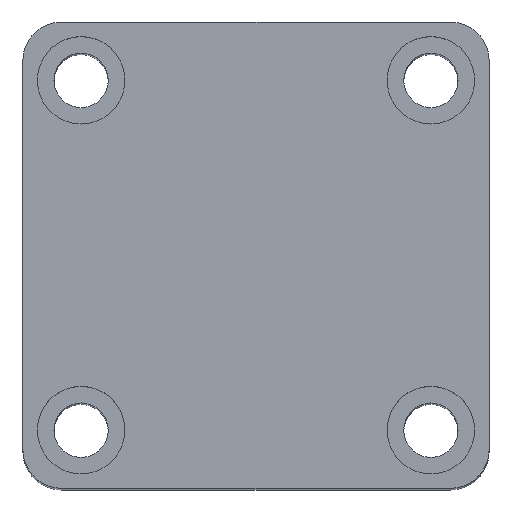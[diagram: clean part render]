
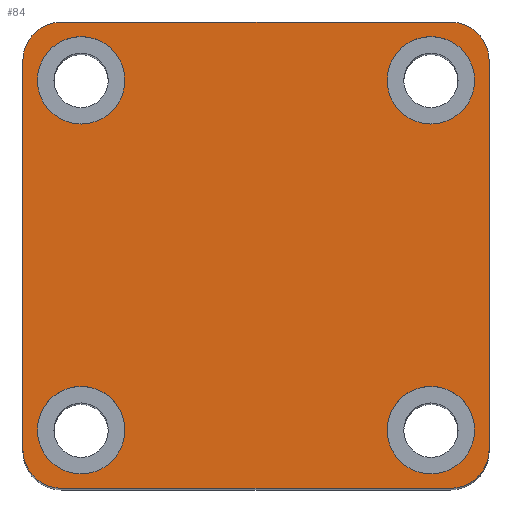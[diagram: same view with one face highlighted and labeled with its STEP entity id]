
A CAD part, top view. The second image highlights one B-rep face of the part: STEP entity #84.
In plain terms, the highlighted planar face has unit normal (0, 0, 1).
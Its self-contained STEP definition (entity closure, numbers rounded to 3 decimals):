
#84 = ADVANCED_FACE ( 'NONE', ( #748, #742, #744, #743, #754 ), #2011, .T. ) ;
#97 = EDGE_LOOP ( 'NONE', ( #390, #389 ) ) ;
#109 = EDGE_LOOP ( 'NONE', ( #397, #398, #430, #399, #402, #400, #404, #403 ) ) ;
#110 = EDGE_LOOP ( 'NONE', ( #388, #387 ) ) ;
#171 = EDGE_LOOP ( 'NONE', ( #386, #385 ) ) ;
#174 = VERTEX_POINT ( 'NONE', #1993 ) ;
#189 = VERTEX_POINT ( 'NONE', #1977 ) ;
#202 = VERTEX_POINT ( 'NONE', #1962 ) ;
#208 = VERTEX_POINT ( 'NONE', #1953 ) ;
#209 = VERTEX_POINT ( 'NONE', #1952 ) ;
#210 = VERTEX_POINT ( 'NONE', #1951 ) ;
#221 = VERTEX_POINT ( 'NONE', #1938 ) ;
#225 = VERTEX_POINT ( 'NONE', #1934 ) ;
#227 = VERTEX_POINT ( 'NONE', #1932 ) ;
#242 = VERTEX_POINT ( 'NONE', #1913 ) ;
#244 = VERTEX_POINT ( 'NONE', #1909 ) ;
#253 = VERTEX_POINT ( 'NONE', #1898 ) ;
#261 = VERTEX_POINT ( 'NONE', #1888 ) ;
#273 = VERTEX_POINT ( 'NONE', #1872 ) ;
#274 = VERTEX_POINT ( 'NONE', #1871 ) ;
#279 = VERTEX_POINT ( 'NONE', #1866 ) ;
#385 = ORIENTED_EDGE ( 'NONE', *, *, #2273, .F. ) ;
#386 = ORIENTED_EDGE ( 'NONE', *, *, #2280, .F. ) ;
#387 = ORIENTED_EDGE ( 'NONE', *, *, #1620, .F. ) ;
#388 = ORIENTED_EDGE ( 'NONE', *, *, #2281, .F. ) ;
#389 = ORIENTED_EDGE ( 'NONE', *, *, #1624, .F. ) ;
#390 = ORIENTED_EDGE ( 'NONE', *, *, #2282, .F. ) ;
#391 = ORIENTED_EDGE ( 'NONE', *, *, #1628, .F. ) ;
#393 = ORIENTED_EDGE ( 'NONE', *, *, #2283, .F. ) ;
#397 = ORIENTED_EDGE ( 'NONE', *, *, #1521, .T. ) ;
#398 = ORIENTED_EDGE ( 'NONE', *, *, #2274, .T. ) ;
#399 = ORIENTED_EDGE ( 'NONE', *, *, #2276, .T. ) ;
#400 = ORIENTED_EDGE ( 'NONE', *, *, #2272, .T. ) ;
#402 = ORIENTED_EDGE ( 'NONE', *, *, #2372, .T. ) ;
#403 = ORIENTED_EDGE ( 'NONE', *, *, #2277, .T. ) ;
#404 = ORIENTED_EDGE ( 'NONE', *, *, #2250, .T. ) ;
#430 = ORIENTED_EDGE ( 'NONE', *, *, #1507, .T. ) ;
#501 = EDGE_LOOP ( 'NONE', ( #393, #391 ) ) ;
#610 = CIRCLE ( 'NONE', #1470, 4.5 ) ;
#611 = CIRCLE ( 'NONE', #1471, 4.5 ) ;
#612 = CIRCLE ( 'NONE', #1472, 4.5 ) ;
#615 = CIRCLE ( 'NONE', #1475, 4. ) ;
#617 = CIRCLE ( 'NONE', #1476, 4. ) ;
#619 = CIRCLE ( 'NONE', #1477, 4. ) ;
#620 = CIRCLE ( 'NONE', #1478, 4.5 ) ;
#622 = CIRCLE ( 'NONE', #1473, 4.5 ) ;
#625 = CIRCLE ( 'NONE', #1479, 4. ) ;
#651 = VECTOR ( 'NONE', #1267, 1000. ) ;
#653 = LINE ( 'NONE', #1089, #651 ) ;
#691 = CIRCLE ( 'NONE', #1505, 4.5 ) ;
#697 = CIRCLE ( 'NONE', #1509, 4.5 ) ;
#703 = CIRCLE ( 'NONE', #1511, 4.5 ) ;
#722 = VECTOR ( 'NONE', #1838, 1000. ) ;
#726 = LINE ( 'NONE', #1839, #722 ) ;
#729 = LINE ( 'NONE', #1852, #732 ) ;
#732 = VECTOR ( 'NONE', #1844, 1000. ) ;
#742 = FACE_BOUND ( 'NONE', #110, .T. ) ;
#743 = FACE_BOUND ( 'NONE', #501, .T. ) ;
#744 = FACE_BOUND ( 'NONE', #97, .T. ) ;
#748 = FACE_BOUND ( 'NONE', #171, .T. ) ;
#754 = FACE_OUTER_BOUND ( 'NONE', #109, .T. ) ;
#1089 = CARTESIAN_POINT ( 'NONE',  ( 24., 24., 95. ) ) ;
#1200 = DIRECTION ( 'NONE',  ( 1., 0., 0. ) ) ;
#1201 = DIRECTION ( 'NONE',  ( 0., 0., 1. ) ) ;
#1203 = CARTESIAN_POINT ( 'NONE',  ( 18., -18., 95. ) ) ;
#1207 = DIRECTION ( 'NONE',  ( 1., 0., 0. ) ) ;
#1208 = DIRECTION ( 'NONE',  ( 0., 0., 1. ) ) ;
#1209 = CARTESIAN_POINT ( 'NONE',  ( -18., -18., 95. ) ) ;
#1211 = DIRECTION ( 'NONE',  ( 1., 0., 0. ) ) ;
#1213 = DIRECTION ( 'NONE',  ( 0., 0., 1. ) ) ;
#1216 = CARTESIAN_POINT ( 'NONE',  ( 18., 18., 95. ) ) ;
#1217 = DIRECTION ( 'NONE',  ( 1., 0., 0. ) ) ;
#1220 = DIRECTION ( 'NONE',  ( 0., 0., 1. ) ) ;
#1221 = CARTESIAN_POINT ( 'NONE',  ( -18., 18., 95. ) ) ;
#1232 = DIRECTION ( 'NONE',  ( 0., 0., 1. ) ) ;
#1236 = DIRECTION ( 'NONE',  ( 1., 0., 0. ) ) ;
#1237 = DIRECTION ( 'NONE',  ( 0., 0., 1. ) ) ;
#1239 = DIRECTION ( 'NONE',  ( 1., 0., 0. ) ) ;
#1240 = CARTESIAN_POINT ( 'NONE',  ( 20., 20., 95. ) ) ;
#1243 = CARTESIAN_POINT ( 'NONE',  ( 18., -18., 95. ) ) ;
#1245 = DIRECTION ( 'NONE',  ( 1., 0., 0. ) ) ;
#1246 = DIRECTION ( 'NONE',  ( 0., 0., 1. ) ) ;
#1247 = CARTESIAN_POINT ( 'NONE',  ( -20., -20., 95. ) ) ;
#1248 = DIRECTION ( 'NONE',  ( 1., 0., 0. ) ) ;
#1249 = DIRECTION ( 'NONE',  ( 1., 0., 0. ) ) ;
#1250 = DIRECTION ( 'NONE',  ( 0., 0., 1. ) ) ;
#1251 = CARTESIAN_POINT ( 'NONE',  ( -20., 20., 95. ) ) ;
#1255 = DIRECTION ( 'NONE',  ( 1., 0., 0. ) ) ;
#1256 = DIRECTION ( 'NONE',  ( 0., 0., 1. ) ) ;
#1257 = DIRECTION ( 'NONE',  ( 0., 0., 1. ) ) ;
#1258 = CARTESIAN_POINT ( 'NONE',  ( -18., 18., 95. ) ) ;
#1261 = CARTESIAN_POINT ( 'NONE',  ( -18., -18., 95. ) ) ;
#1262 = DIRECTION ( 'NONE',  ( 1., 0., 0. ) ) ;
#1264 = DIRECTION ( 'NONE',  ( 0., 0., 1. ) ) ;
#1265 = CARTESIAN_POINT ( 'NONE',  ( 20., -20., 95. ) ) ;
#1267 = DIRECTION ( 'NONE',  ( 0., 1., 0. ) ) ;
#1284 = DIRECTION ( 'NONE',  ( 1., 0., 0. ) ) ;
#1285 = DIRECTION ( 'NONE',  ( 0., 0., 1. ) ) ;
#1288 = CARTESIAN_POINT ( 'NONE',  ( 18., 18., 95. ) ) ;
#1470 = AXIS2_PLACEMENT_3D ( 'NONE', #1203, #1201, #1200 ) ;
#1471 = AXIS2_PLACEMENT_3D ( 'NONE', #1209, #1208, #1207 ) ;
#1472 = AXIS2_PLACEMENT_3D ( 'NONE', #1216, #1213, #1211 ) ;
#1473 = AXIS2_PLACEMENT_3D ( 'NONE', #1221, #1220, #1217 ) ;
#1475 = AXIS2_PLACEMENT_3D ( 'NONE', #1240, #1237, #1236 ) ;
#1476 = AXIS2_PLACEMENT_3D ( 'NONE', #1247, #1246, #1245 ) ;
#1477 = AXIS2_PLACEMENT_3D ( 'NONE', #1251, #1250, #1248 ) ;
#1478 = AXIS2_PLACEMENT_3D ( 'NONE', #1258, #1257, #1255 ) ;
#1479 = AXIS2_PLACEMENT_3D ( 'NONE', #1265, #1264, #1262 ) ;
#1505 = AXIS2_PLACEMENT_3D ( 'NONE', #1243, #1232, #1239 ) ;
#1507 = EDGE_CURVE ( 'NONE', #202, #174, #729, .T. ) ;
#1509 = AXIS2_PLACEMENT_3D ( 'NONE', #1261, #1256, #1249 ) ;
#1511 = AXIS2_PLACEMENT_3D ( 'NONE', #1288, #1285, #1284 ) ;
#1521 = EDGE_CURVE ( 'NONE', #274, #242, #726, .T. ) ;
#1524 = AXIS2_PLACEMENT_3D ( 'NONE', #2014, #2023, #2007 ) ;
#1620 = EDGE_CURVE ( 'NONE', #221, #210, #703, .T. ) ;
#1624 = EDGE_CURVE ( 'NONE', #208, #209, #697, .T. ) ;
#1628 = EDGE_CURVE ( 'NONE', #273, #253, #691, .T. ) ;
#1804 = VECTOR ( 'NONE', #2560, 1000. ) ;
#1807 = LINE ( 'NONE', #2561, #1804 ) ;
#1838 = DIRECTION ( 'NONE',  ( -1., 0., 0. ) ) ;
#1839 = CARTESIAN_POINT ( 'NONE',  ( -24., 24., 95. ) ) ;
#1844 = DIRECTION ( 'NONE',  ( 0., -1., 0. ) ) ;
#1852 = CARTESIAN_POINT ( 'NONE',  ( -24., 24., 95. ) ) ;
#1866 = CARTESIAN_POINT ( 'NONE',  ( -20., -24., 95. ) ) ;
#1871 = CARTESIAN_POINT ( 'NONE',  ( 20., 24., 95. ) ) ;
#1872 = CARTESIAN_POINT ( 'NONE',  ( 13.5, -18., 95. ) ) ;
#1888 = CARTESIAN_POINT ( 'NONE',  ( 24., 20., 95. ) ) ;
#1898 = CARTESIAN_POINT ( 'NONE',  ( 22.5, -18., 95. ) ) ;
#1909 = CARTESIAN_POINT ( 'NONE',  ( 24., -20., 95. ) ) ;
#1913 = CARTESIAN_POINT ( 'NONE',  ( -20., 24., 95. ) ) ;
#1932 = CARTESIAN_POINT ( 'NONE',  ( -22.5, 18., 95. ) ) ;
#1934 = CARTESIAN_POINT ( 'NONE',  ( -13.5, 18., 95. ) ) ;
#1938 = CARTESIAN_POINT ( 'NONE',  ( 13.5, 18., 95. ) ) ;
#1951 = CARTESIAN_POINT ( 'NONE',  ( 22.5, 18., 95. ) ) ;
#1952 = CARTESIAN_POINT ( 'NONE',  ( -13.5, -18., 95. ) ) ;
#1953 = CARTESIAN_POINT ( 'NONE',  ( -22.5, -18., 95. ) ) ;
#1962 = CARTESIAN_POINT ( 'NONE',  ( -24., 20., 95. ) ) ;
#1977 = CARTESIAN_POINT ( 'NONE',  ( 20., -24., 95. ) ) ;
#1993 = CARTESIAN_POINT ( 'NONE',  ( -24., -20., 95. ) ) ;
#2007 = DIRECTION ( 'NONE',  ( 1., 0., 0. ) ) ;
#2011 = PLANE ( 'NONE',  #1524 ) ;
#2014 = CARTESIAN_POINT ( 'NONE',  ( 0., 0., 95. ) ) ;
#2023 = DIRECTION ( 'NONE',  ( 0., 0., 1. ) ) ;
#2250 = EDGE_CURVE ( 'NONE', #244, #261, #653, .T. ) ;
#2272 = EDGE_CURVE ( 'NONE', #189, #244, #625, .T. ) ;
#2273 = EDGE_CURVE ( 'NONE', #227, #225, #620, .T. ) ;
#2274 = EDGE_CURVE ( 'NONE', #242, #202, #619, .T. ) ;
#2276 = EDGE_CURVE ( 'NONE', #174, #279, #617, .T. ) ;
#2277 = EDGE_CURVE ( 'NONE', #261, #274, #615, .T. ) ;
#2280 = EDGE_CURVE ( 'NONE', #225, #227, #622, .T. ) ;
#2281 = EDGE_CURVE ( 'NONE', #210, #221, #612, .T. ) ;
#2282 = EDGE_CURVE ( 'NONE', #209, #208, #611, .T. ) ;
#2283 = EDGE_CURVE ( 'NONE', #253, #273, #610, .T. ) ;
#2372 = EDGE_CURVE ( 'NONE', #279, #189, #1807, .T. ) ;
#2560 = DIRECTION ( 'NONE',  ( 1., 0., 0. ) ) ;
#2561 = CARTESIAN_POINT ( 'NONE',  ( -24., -24., 95. ) ) ;
